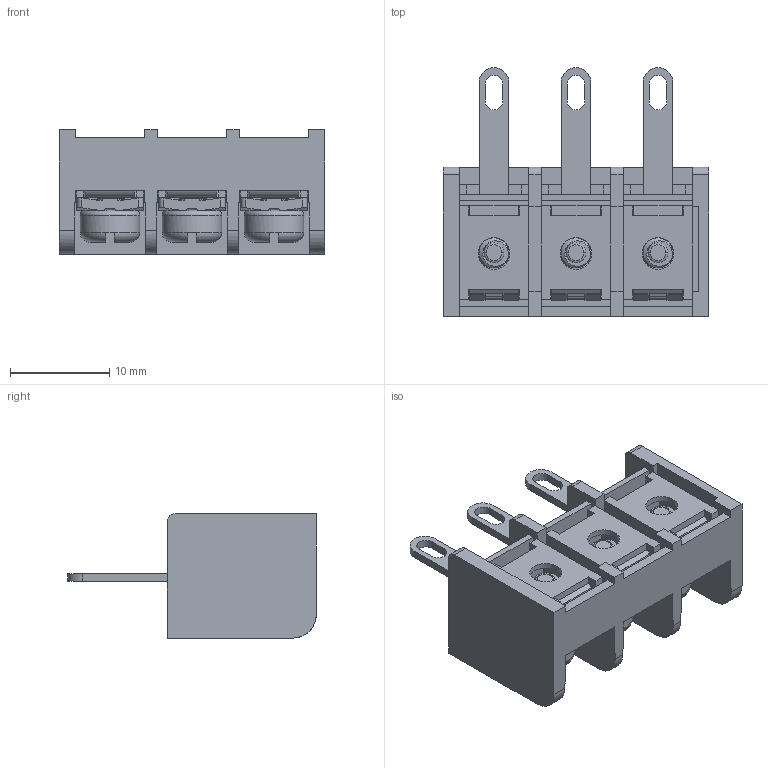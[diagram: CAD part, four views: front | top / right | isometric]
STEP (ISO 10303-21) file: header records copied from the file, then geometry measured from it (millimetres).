
FILE_DESCRIPTION((''),'2;1');
FILE_NAME('3PIN','2021-04-21T',('hanke'),(''),'CREO PARAMETRIC BY PTC INC, 2016260','CREO PARAMETRIC BY PTC INC, 2016260','');
FILE_SCHEMA(('CONFIG_CONTROL_DESIGN'));
Products named in the file (1): 3PIN
Bounding box: 26.75 x 25 x 12.5 mm (x, y, z)
Volume: 2461 mm3; surface area: 4972.6 mm2
Topology: 1 solids, 1 shells, 867 faces, 2537 edges, 1654 vertices
Faces by surface type: plane 544, cylinder 164, bspline 75, torus 54, cone 30
Entity records: 45186 total; most frequent: CARTESIAN_POINT 23043, ORIENTED_EDGE 5074, DIRECTION 4035, EDGE_CURVE 2537, VERTEX_POINT 1654, VECTOR 1477, LINE 1477, AXIS2_PLACEMENT_3D 1279
